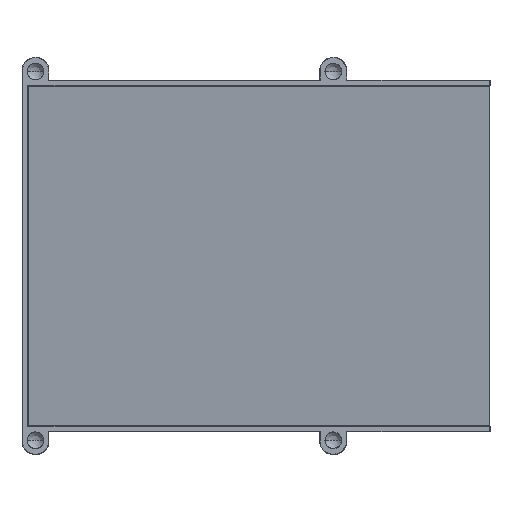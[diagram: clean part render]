
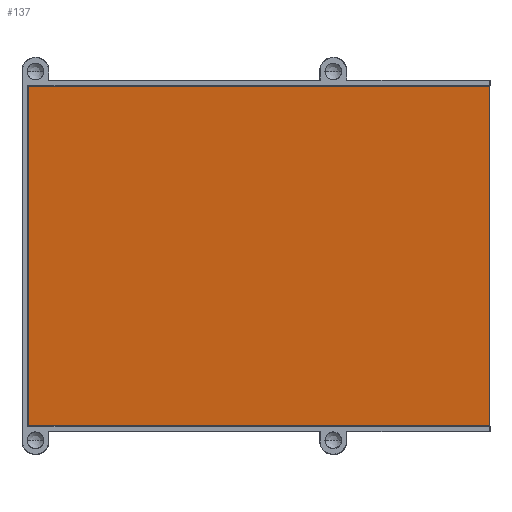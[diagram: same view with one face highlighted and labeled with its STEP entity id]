
A CAD part, top view. The second image highlights one B-rep face of the part: STEP entity #137.
In plain terms, the highlighted planar face has unit normal (-0.164, 0, 0.986).
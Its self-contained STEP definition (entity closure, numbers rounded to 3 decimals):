
#137=ADVANCED_FACE($,(#339),#2566,.T.);
#339=FACE_OUTER_BOUND($,#550,.T.);
#550=EDGE_LOOP($,(#1170,#1171,#1172,#1173));
#1170=ORIENTED_EDGE($,*,*,#1952,.T.);
#1171=ORIENTED_EDGE($,*,*,#1953,.T.);
#1172=ORIENTED_EDGE($,*,*,#1954,.T.);
#1173=ORIENTED_EDGE($,*,*,#1766,.T.);
#1766=EDGE_CURVE($,#2230,#2224,#2676,.T.);
#1952=EDGE_CURVE($,#2224,#2223,#2825,.T.);
#1953=EDGE_CURVE($,#2223,#2228,#2826,.T.);
#1954=EDGE_CURVE($,#2228,#2230,#2827,.T.);
#2223=VERTEX_POINT($,#6061);
#2224=VERTEX_POINT($,#6062);
#2228=VERTEX_POINT($,#6066);
#2230=VERTEX_POINT($,#6068);
#2566=PLANE($,#3389);
#2676=B_SPLINE_CURVE_WITH_KNOTS($,1,(#3937,#3938),.UNSPECIFIED.,.F.,.F.,
(2,2),(0.,329.974),.UNSPECIFIED.);
#2825=B_SPLINE_CURVE_WITH_KNOTS($,1,(#4398,#4399),.UNSPECIFIED.,.F.,.F.,
(2,2),(0.,239.6),.UNSPECIFIED.);
#2826=B_SPLINE_CURVE_WITH_KNOTS($,1,(#4400,#4401),.UNSPECIFIED.,.F.,.F.,
(2,2),(-329.974,0.),.UNSPECIFIED.);
#2827=B_SPLINE_CURVE_WITH_KNOTS($,1,(#4402,#4403),.UNSPECIFIED.,.F.,.F.,
(2,2),(-239.6,0.),.UNSPECIFIED.);
#3389=AXIS2_PLACEMENT_3D($,#5117,#3481,$);
#3481=DIRECTION($,(-0.164,0.,0.986));
#3937=CARTESIAN_POINT($,(-160.767,-119.8,4.747));
#3938=CARTESIAN_POINT($,(164.724,-119.8,58.954));
#4398=CARTESIAN_POINT($,(164.724,-119.8,58.954));
#4399=CARTESIAN_POINT($,(164.724,119.8,58.954));
#4400=CARTESIAN_POINT($,(164.724,119.8,58.954));
#4401=CARTESIAN_POINT($,(-160.767,119.8,4.747));
#4402=CARTESIAN_POINT($,(-160.767,119.8,4.747));
#4403=CARTESIAN_POINT($,(-160.767,-119.8,4.747));
#5117=CARTESIAN_POINT($,(-160.767,-119.8,4.747));
#6061=CARTESIAN_POINT($,(164.724,119.8,58.954));
#6062=CARTESIAN_POINT($,(164.724,-119.8,58.954));
#6066=CARTESIAN_POINT($,(-160.767,119.8,4.747));
#6068=CARTESIAN_POINT($,(-160.767,-119.8,4.747));
